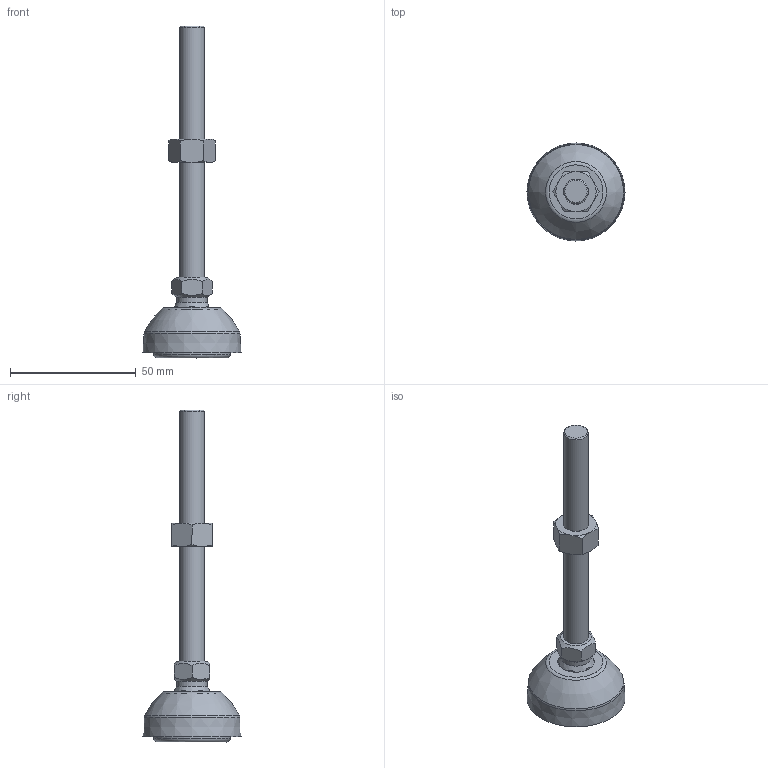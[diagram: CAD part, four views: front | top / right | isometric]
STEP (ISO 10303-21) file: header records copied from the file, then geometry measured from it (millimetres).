
FILE_DESCRIPTION(/* description */ (''),/* implementation_level */ '2;1');
FILE_NAME(/* name */ 'Articulating Anti-slip Levelling Foot - Nylon 39mm - M10 - 100mm.step',/* time_stamp */ '2025-10-14T14:47:30+03:00',/* author */ (''),/* organization */ (''),/* preprocessor_version */ 'ST-DEVELOPER v20.1',/* originating_system */ 'Autodesk Translation Framework v14.17.0.0',/* authorisation */ '');
FILE_SCHEMA (('AUTOMOTIVE_DESIGN { 1 0 10303 214 3 1 1 }'));
Length unit declared in the file: millimetre
Products named in the file (5): Articulating Anti-slip Levelling Foot - Nylon 39mm - M10 - 100mm; Articulating Levelling Foot Stud - M10 - 100mm; hex nut style 2_am_B18.2.4.2M - Hex nut, Style 2,  M10 x 1.5, with 16
mm WAF --D-N; Articulating Levelling Foot Stud - M10 - 100mm_1; 340.1200A.01
Assembly tree (4 placements, depth 3):
  Articulating Anti-slip Levelling Foot - Nylon 39mm - M10 - 100mm
    Articulating Levelling Foot Stud - M10 - 100mm
      hex nut style 2_am_B18.2.4.2M - Hex nut, Style 2,  M10 x 1.5, with 16
mm WAF --D-N
      Articulating Levelling Foot Stud - M10 - 100mm_1
    340.1200A.01
Bounding box: 39 x 39 x 132.11 mm (x, y, z)
Volume: 31149.8 mm3; surface area: 12533.3 mm2
Topology: 4 solids, 12 shells, 118 faces, 250 edges, 165 vertices
Faces by surface type: plane 61, cone 34, cylinder 17, torus 3, bspline 2, sphere 1
Full cylindrical faces by diameter (mm): 8.526 x1, 9.85 x1, 10 x1, 12.166 x1, 14.5 x1, 14.8 x1, 15.5 x1, 30.5 x1, 31.6 x1
Entity records: 4076 total; most frequent: CARTESIAN_POINT 1511, DIRECTION 525, ORIENTED_EDGE 496, EDGE_CURVE 248, AXIS2_PLACEMENT_3D 229, VERTEX_POINT 165, EDGE_LOOP 131, FACE_OUTER_BOUND 118
